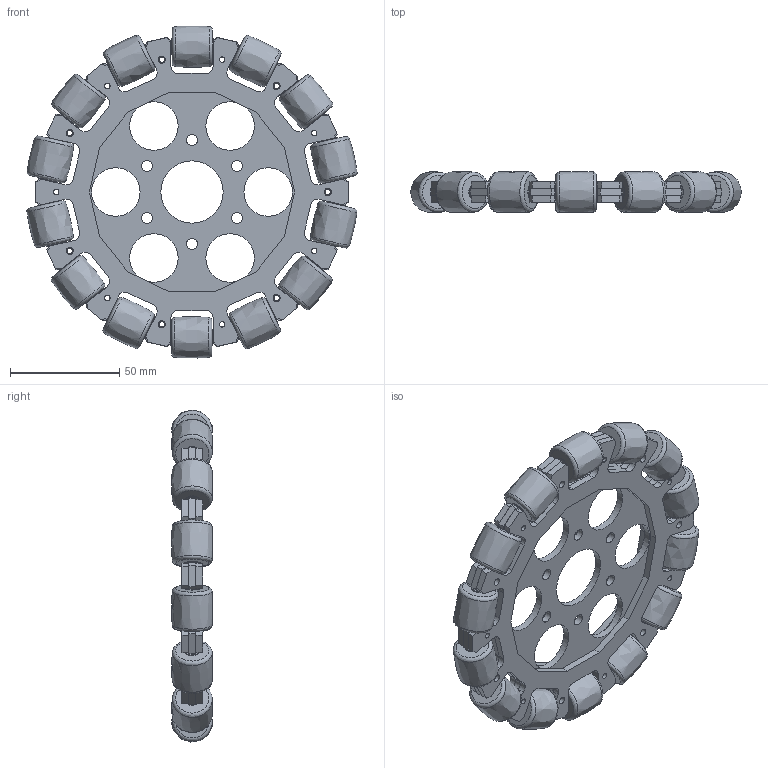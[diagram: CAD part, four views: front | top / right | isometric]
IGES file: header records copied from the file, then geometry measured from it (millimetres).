
Global section: file name: No Iges File Name specified; native system: AutoDesk Inventor R5.0; preprocessor: AutoDesk Inventor Iges Exporter R5.0; author: No Author specified; organization: No Organization specified; date: 20070115.094313; units: millimetre
Bounding box: 151.42 x 18.59 x 152.23 mm (x, y, z)
Surface area: 83191.3 mm2 (no closed solid volume)
Topology: 0 solids, 0 shells, 887 faces, 4670 edges, 4378 vertices
Faces by surface type: plane 510, revolution 279, bspline 98
